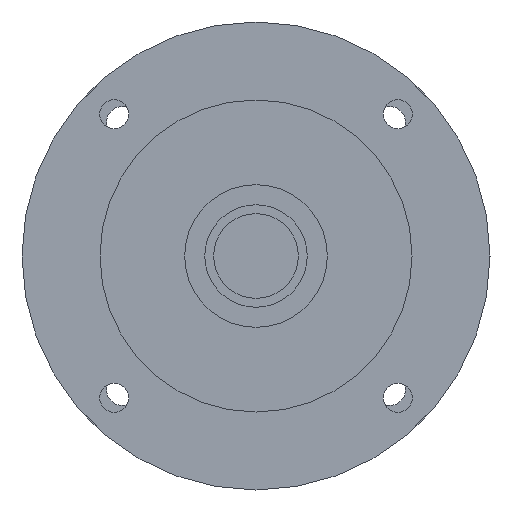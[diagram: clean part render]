
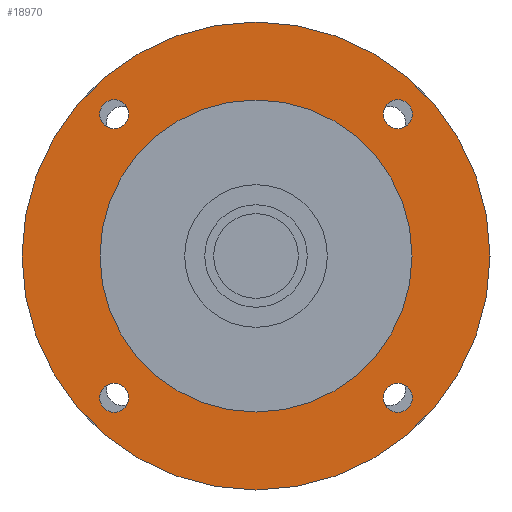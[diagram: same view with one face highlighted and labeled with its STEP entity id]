
A CAD part, left-side view. The second image highlights one B-rep face of the part: STEP entity #18970.
In plain terms, the highlighted planar face has unit normal (-1, 0, 0) as drawn and (0, 0, -1) by its records, which use the part's own axes.
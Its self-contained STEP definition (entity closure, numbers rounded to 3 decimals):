
#17810=CARTESIAN_POINT('',(-28.57,31.82,-42.));
#17820=VERTEX_POINT('',#17810);
#17850=CARTESIAN_POINT('',(-31.82,31.82,-42.));
#17860=DIRECTION('',(0.,0.,-1.));
#17870=DIRECTION('',(-1.,0.,0.));
#17880=AXIS2_PLACEMENT_3D('',#17850,#17860,#17870);
#17890=CIRCLE('',#17880,3.25);
#17900=CARTESIAN_POINT('',(-35.07,31.82,-42.));
#17910=VERTEX_POINT('',#17900);
#17920=EDGE_CURVE('',#17910,#17820,#17890,.T.);
#18040=CARTESIAN_POINT('',(0.,0.,-42.)
);
#18050=DIRECTION('',(0.,0.,-1.));
#18060=DIRECTION('',(1.,0.,0.));
#18070=AXIS2_PLACEMENT_3D('',#18040,#18050,#18060);
#18080=PLANE('',#18070);
#18090=CARTESIAN_POINT('',(31.82,-31.82,-42.));
#18100=DIRECTION('',(0.,0.,-1.));
#18110=DIRECTION('',(1.,0.,0.));
#18120=AXIS2_PLACEMENT_3D('',#18090,#18100,#18110);
#18130=CIRCLE('',#18120,3.25);
#18140=CARTESIAN_POINT('',(35.07,-31.82,-42.));
#18150=VERTEX_POINT('',#18140);
#18160=CARTESIAN_POINT('',(28.57,-31.82,-42.));
#18170=VERTEX_POINT('',#18160);
#18180=EDGE_CURVE('',#18150,#18170,#18130,.T.);
#18190=ORIENTED_EDGE('',*,*,#18180,.F.);
#18200=EDGE_CURVE('',#18170,#18150,#18130,.T.);
#18210=ORIENTED_EDGE('',*,*,#18200,.F.);
#18220=EDGE_LOOP('',(#18210,#18190));
#18230=FACE_BOUND('',#18220,.T.);
#18240=CARTESIAN_POINT('',(0.,0.,-42.)
);
#18250=DIRECTION('',(0.,0.,-1.));
#18260=DIRECTION('',(0.,-1.,0.));
#18270=AXIS2_PLACEMENT_3D('',#18240,#18250,#18260);
#18280=CIRCLE('',#18270,52.5);
#18290=CARTESIAN_POINT('',(-52.5,0.,-42.));
#18300=VERTEX_POINT('',#18290);
#18310=CARTESIAN_POINT('',(52.5,0.,-42.));
#18320=VERTEX_POINT('',#18310);
#18330=EDGE_CURVE('',#18300,#18320,#18280,.T.);
#18340=ORIENTED_EDGE('',*,*,#18330,.T.);
#18350=CARTESIAN_POINT('',(0.,-52.5,-42.));
#18360=VERTEX_POINT('',#18350);
#18370=EDGE_CURVE('',#18360,#18300,#18280,.T.);
#18380=ORIENTED_EDGE('',*,*,#18370,.T.);
#18390=EDGE_CURVE('',#18320,#18360,#18280,.T.);
#18400=ORIENTED_EDGE('',*,*,#18390,.T.);
#18410=EDGE_LOOP('',(#18400,#18380,#18340));
#18420=FACE_OUTER_BOUND('',#18410,.T.);
#18430=CARTESIAN_POINT('',(31.82,31.82,-42.));
#18440=DIRECTION('',(0.,0.,-1.));
#18450=DIRECTION('',(0.,1.,0.));
#18460=AXIS2_PLACEMENT_3D('',#18430,#18440,#18450);
#18470=CIRCLE('',#18460,3.25);
#18480=CARTESIAN_POINT('',(31.82,35.07,-42.));
#18490=VERTEX_POINT('',#18480);
#18500=CARTESIAN_POINT('',(31.82,28.57,-42.));
#18510=VERTEX_POINT('',#18500);
#18520=EDGE_CURVE('',#18490,#18510,#18470,.T.);
#18530=ORIENTED_EDGE('',*,*,#18520,.F.);
#18540=EDGE_CURVE('',#18510,#18490,#18470,.T.);
#18550=ORIENTED_EDGE('',*,*,#18540,.F.);
#18560=EDGE_LOOP('',(#18550,#18530));
#18570=FACE_BOUND('',#18560,.T.);
#18580=ORIENTED_EDGE('',*,*,#17920,.F.);
#18590=EDGE_CURVE('',#17820,#17910,#17890,.T.);
#18600=ORIENTED_EDGE('',*,*,#18590,.F.);
#18610=EDGE_LOOP('',(#18600,#18580));
#18620=FACE_BOUND('',#18610,.T.);
#18630=CARTESIAN_POINT('',(-31.82,-31.82,-42.));
#18640=DIRECTION('',(0.,0.,-1.));
#18650=DIRECTION('',(0.,-1.,0.));
#18660=AXIS2_PLACEMENT_3D('',#18630,#18640,#18650);
#18670=CIRCLE('',#18660,3.25);
#18680=CARTESIAN_POINT('',(-31.82,-35.07,-42.));
#18690=VERTEX_POINT('',#18680);
#18700=CARTESIAN_POINT('',(-31.82,-28.57,-42.));
#18710=VERTEX_POINT('',#18700);
#18720=EDGE_CURVE('',#18690,#18710,#18670,.T.);
#18730=ORIENTED_EDGE('',*,*,#18720,.F.);
#18740=EDGE_CURVE('',#18710,#18690,#18670,.T.);
#18750=ORIENTED_EDGE('',*,*,#18740,.F.);
#18760=EDGE_LOOP('',(#18750,#18730));
#18770=FACE_BOUND('',#18760,.T.);
#18780=CARTESIAN_POINT('',(0.,0.,
-42.));
#18790=DIRECTION('',(0.,0.,1.));
#18800=DIRECTION('',(0.,1.,0.));
#18810=AXIS2_PLACEMENT_3D('',#18780,#18790,#18800);
#18820=CIRCLE('',#18810,35.);
#18830=CARTESIAN_POINT('',(-35.,0.,-42.));
#18840=VERTEX_POINT('',#18830);
#18850=CARTESIAN_POINT('',(35.,0.,-42.));
#18860=VERTEX_POINT('',#18850);
#18870=EDGE_CURVE('',#18840,#18860,#18820,.T.);
#18880=ORIENTED_EDGE('',*,*,#18870,.T.);
#18890=CARTESIAN_POINT('',(0.,35.,-42.));
#18900=VERTEX_POINT('',#18890);
#18910=EDGE_CURVE('',#18900,#18840,#18820,.T.);
#18920=ORIENTED_EDGE('',*,*,#18910,.T.);
#18930=EDGE_CURVE('',#18860,#18900,#18820,.T.);
#18940=ORIENTED_EDGE('',*,*,#18930,.T.);
#18950=EDGE_LOOP('',(#18940,#18920,#18880));
#18960=FACE_BOUND('',#18950,.T.);
#18970=ADVANCED_FACE('',(#18230,#18420,#18570,#18620,#18770,#18960),
#18080,.T.);
